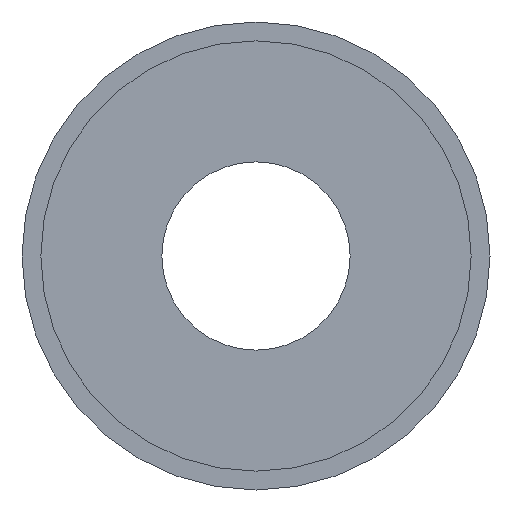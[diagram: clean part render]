
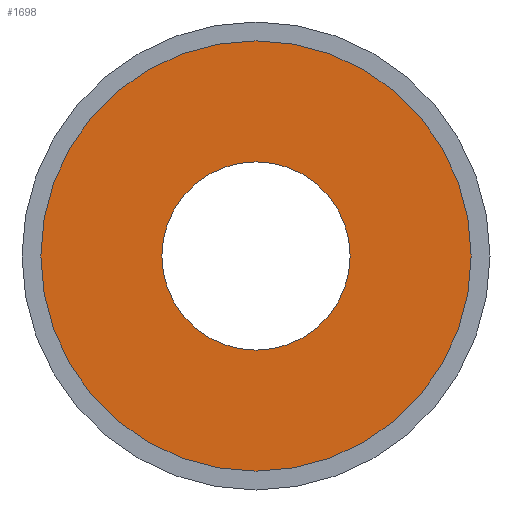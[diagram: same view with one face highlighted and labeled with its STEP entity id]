
A CAD part, front view. The second image highlights one B-rep face of the part: STEP entity #1698.
In plain terms, the highlighted planar face has unit normal (0, -1, 0).
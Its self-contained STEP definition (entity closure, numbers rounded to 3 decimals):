
#7 = DIRECTION ( 'NONE',  ( 0., 0., -1. ) ) ;
#168 = ORIENTED_EDGE ( 'NONE', *, *, #3280, .T. ) ;
#219 = CARTESIAN_POINT ( 'NONE',  ( 0., -16.5, 0. ) ) ;
#252 = CIRCLE ( 'NONE', #1646, 17.5 ) ;
#256 = VERTEX_POINT ( 'NONE', #878 ) ;
#329 = DIRECTION ( 'NONE',  ( 0., 0., 1. ) ) ;
#540 = CARTESIAN_POINT ( 'NONE',  ( 0., -16.5, 0. ) ) ;
#603 = ORIENTED_EDGE ( 'NONE', *, *, #1017, .T. ) ;
#784 = EDGE_LOOP ( 'NONE', ( #168, #603 ) ) ;
#865 = PLANE ( 'NONE',  #1293 ) ;
#878 = CARTESIAN_POINT ( 'NONE',  ( 0., -16.5, 40. ) ) ;
#949 = DIRECTION ( 'NONE',  ( 0., -1., 0. ) ) ;
#995 = DIRECTION ( 'NONE',  ( 0., -1., 0. ) ) ;
#1003 = AXIS2_PLACEMENT_3D ( 'NONE', #540, #2856, #7 ) ;
#1017 = EDGE_CURVE ( 'NONE', #256, #1361, #3089, .T. ) ;
#1099 = AXIS2_PLACEMENT_3D ( 'NONE', #1427, #949, #2496 ) ;
#1257 = AXIS2_PLACEMENT_3D ( 'NONE', #2921, #1934, #2699 ) ;
#1271 = EDGE_CURVE ( 'NONE', #1541, #1560, #2249, .T. ) ;
#1293 = AXIS2_PLACEMENT_3D ( 'NONE', #2630, #1845, #329 ) ;
#1361 = VERTEX_POINT ( 'NONE', #3035 ) ;
#1374 = EDGE_CURVE ( 'NONE', #1560, #1541, #252, .T. ) ;
#1427 = CARTESIAN_POINT ( 'NONE',  ( 0., -16.5, 0. ) ) ;
#1541 = VERTEX_POINT ( 'NONE', #2575 ) ;
#1560 = VERTEX_POINT ( 'NONE', #3095 ) ;
#1646 = AXIS2_PLACEMENT_3D ( 'NONE', #219, #995, #1769 ) ;
#1698 = ADVANCED_FACE ( 'NONE', ( #2935, #3203 ), #865, .F. ) ;
#1769 = DIRECTION ( 'NONE',  ( 0., 0., -1. ) ) ;
#1845 = DIRECTION ( 'NONE',  ( 0., 1., 0. ) ) ;
#1934 = DIRECTION ( 'NONE',  ( 0., -1., 0. ) ) ;
#2113 = CIRCLE ( 'NONE', #1003, 40. ) ;
#2185 = ORIENTED_EDGE ( 'NONE', *, *, #1271, .F. ) ;
#2249 = CIRCLE ( 'NONE', #1257, 17.5 ) ;
#2341 = ORIENTED_EDGE ( 'NONE', *, *, #1374, .F. ) ;
#2496 = DIRECTION ( 'NONE',  ( 0., 0., -1. ) ) ;
#2575 = CARTESIAN_POINT ( 'NONE',  ( 0., -16.5, 17.5 ) ) ;
#2630 = CARTESIAN_POINT ( 'NONE',  ( 0., -16.5, 17.5 ) ) ;
#2699 = DIRECTION ( 'NONE',  ( 0., 0., -1. ) ) ;
#2856 = DIRECTION ( 'NONE',  ( 0., -1., 0. ) ) ;
#2921 = CARTESIAN_POINT ( 'NONE',  ( 0., -16.5, 0. ) ) ;
#2935 = FACE_BOUND ( 'NONE', #3125, .T. ) ;
#3035 = CARTESIAN_POINT ( 'NONE',  ( 0., -16.5, -40. ) ) ;
#3089 = CIRCLE ( 'NONE', #1099, 40. ) ;
#3095 = CARTESIAN_POINT ( 'NONE',  ( 0., -16.5, -17.5 ) ) ;
#3125 = EDGE_LOOP ( 'NONE', ( #2341, #2185 ) ) ;
#3203 = FACE_OUTER_BOUND ( 'NONE', #784, .T. ) ;
#3280 = EDGE_CURVE ( 'NONE', #1361, #256, #2113, .T. ) ;
